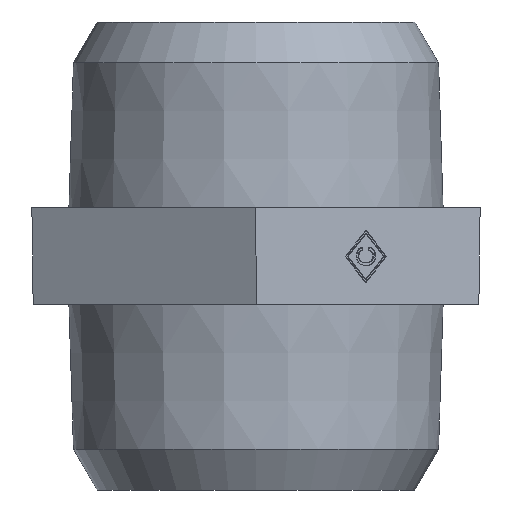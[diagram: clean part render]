
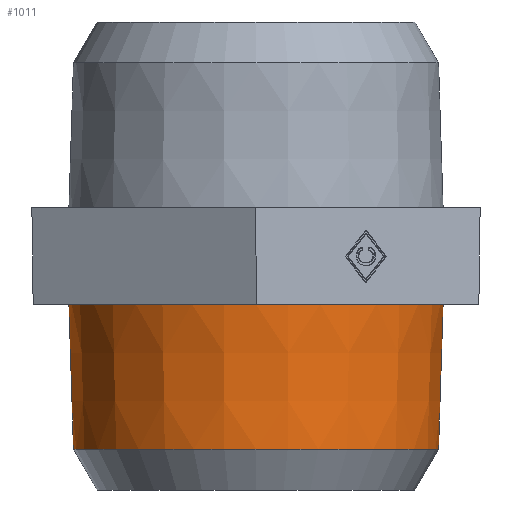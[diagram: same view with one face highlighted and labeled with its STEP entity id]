
A CAD part, front view. The second image highlights one B-rep face of the part: STEP entity #1011.
In plain terms, the highlighted conical face has half-angle 1.8 degrees and reference radius 25.185 mm.
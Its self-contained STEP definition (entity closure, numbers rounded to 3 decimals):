
#980=CARTESIAN_POINT('',(-24.572,0.,-19.505));
#981=VERTEX_POINT('',#980);
#982=CARTESIAN_POINT('',(0.,0.,-19.505));
#983=DIRECTION('',(0.0,0.0,-1.0));
#984=DIRECTION('',(1.0,0.0,0.0));
#985=AXIS2_PLACEMENT_3D('',#982,#983,#984);
#986=CIRCLE('',#985,24.572);
#987=EDGE_CURVE('',#981,#981,#986,.T.);
#992=CARTESIAN_POINT('',(0.,0.0,0.));
#993=DIRECTION('',(0.,0.,1.));
#994=DIRECTION('',(1.0,0.0,0.0));
#995=AXIS2_PLACEMENT_3D('',#992,#993,#994);
#996=CONICAL_SURFACE('',#995,25.185,1.8);
#997=CARTESIAN_POINT('',(-25.185,0.,0.));
#998=VERTEX_POINT('',#997);
#999=CARTESIAN_POINT('',(0.,0.0,0.));
#1000=DIRECTION('',(0.0,0.0,1.0));
#1001=DIRECTION('',(1.0,0.0,0.0));
#1002=AXIS2_PLACEMENT_3D('',#999,#1000,#1001);
#1003=CIRCLE('',#1002,25.185);
#1004=EDGE_CURVE('',#998,#998,#1003,.T.);
#1005=ORIENTED_EDGE('',*,*,#1004,.F.);
#1006=EDGE_LOOP('',(#1005));
#1007=FACE_OUTER_BOUND('',#1006,.T.);
#1008=ORIENTED_EDGE('',*,*,#987,.F.);
#1009=EDGE_LOOP('',(#1008));
#1010=FACE_BOUND('',#1009,.T.);
#1011=ADVANCED_FACE('',(#1007,#1010),#996,.T.);
